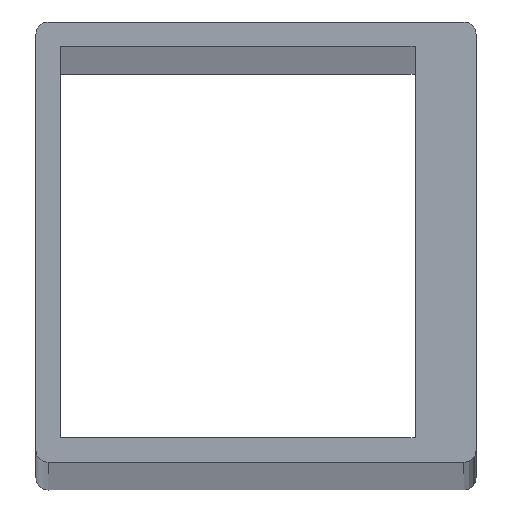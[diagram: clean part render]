
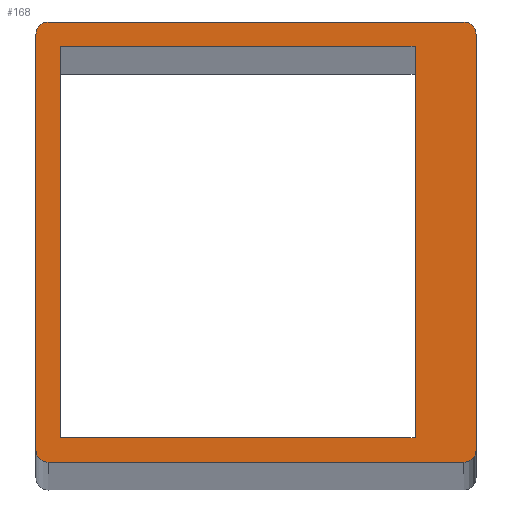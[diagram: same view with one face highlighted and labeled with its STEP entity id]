
A CAD part, top view. The second image highlights one B-rep face of the part: STEP entity #168.
In plain terms, the highlighted planar face has unit normal (0, 0, 1).
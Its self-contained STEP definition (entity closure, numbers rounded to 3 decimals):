
#55=LINE('',#1707,#83);
#58=LINE('',#1745,#86);
#61=LINE('',#1751,#89);
#63=LINE('',#1754,#91);
#64=LINE('',#1759,#92);
#65=LINE('',#1763,#93);
#66=LINE('',#1767,#94);
#67=LINE('',#1771,#95);
#83=VECTOR('',#1362,1.);
#86=VECTOR('',#1399,1.);
#89=VECTOR('',#1404,1.);
#91=VECTOR('',#1408,1.);
#92=VECTOR('',#1413,1.);
#93=VECTOR('',#1416,1.);
#94=VECTOR('',#1419,1.);
#95=VECTOR('',#1422,1.);
#168=ADVANCED_FACE('',(#301,#302),#234,.F.);
#234=PLANE('',#1191);
#301=FACE_BOUND('',#470,.T.);
#302=FACE_BOUND('',#471,.T.);
#470=EDGE_LOOP('',(#658,#659,#660,#661,#662,#663,#664,#665));
#471=EDGE_LOOP('',(#666,#667,#668,#669));
#658=ORIENTED_EDGE('',*,*,#978,.T.);
#659=ORIENTED_EDGE('',*,*,#979,.F.);
#660=ORIENTED_EDGE('',*,*,#980,.T.);
#661=ORIENTED_EDGE('',*,*,#981,.F.);
#662=ORIENTED_EDGE('',*,*,#982,.T.);
#663=ORIENTED_EDGE('',*,*,#983,.F.);
#664=ORIENTED_EDGE('',*,*,#984,.T.);
#665=ORIENTED_EDGE('',*,*,#985,.F.);
#666=ORIENTED_EDGE('',*,*,#975,.T.);
#667=ORIENTED_EDGE('',*,*,#977,.T.);
#668=ORIENTED_EDGE('',*,*,#972,.T.);
#669=ORIENTED_EDGE('',*,*,#953,.T.);
#846=VERTEX_POINT('',#1701);
#849=VERTEX_POINT('',#1706);
#866=VERTEX_POINT('',#1742);
#869=VERTEX_POINT('',#1750);
#870=VERTEX_POINT('',#1757);
#871=VERTEX_POINT('',#1758);
#872=VERTEX_POINT('',#1760);
#873=VERTEX_POINT('',#1762);
#874=VERTEX_POINT('',#1764);
#875=VERTEX_POINT('',#1766);
#876=VERTEX_POINT('',#1768);
#877=VERTEX_POINT('',#1770);
#953=EDGE_CURVE('',#846,#849,#55,.T.);
#972=EDGE_CURVE('',#866,#846,#58,.T.);
#975=EDGE_CURVE('',#849,#869,#61,.T.);
#977=EDGE_CURVE('',#869,#866,#63,.T.);
#978=EDGE_CURVE('',#870,#871,#1082,.T.);
#979=EDGE_CURVE('',#872,#871,#64,.T.);
#980=EDGE_CURVE('',#872,#873,#1083,.T.);
#981=EDGE_CURVE('',#874,#873,#65,.T.);
#982=EDGE_CURVE('',#874,#875,#1084,.T.);
#983=EDGE_CURVE('',#876,#875,#66,.T.);
#984=EDGE_CURVE('',#876,#877,#1085,.T.);
#985=EDGE_CURVE('',#870,#877,#67,.T.);
#1082=CIRCLE('',#1187,1.);
#1083=CIRCLE('',#1188,1.);
#1084=CIRCLE('',#1189,1.);
#1085=CIRCLE('',#1190,1.);
#1187=AXIS2_PLACEMENT_3D('',#1756,#1411,#1412);
#1188=AXIS2_PLACEMENT_3D('',#1761,#1414,#1415);
#1189=AXIS2_PLACEMENT_3D('',#1765,#1417,#1418);
#1190=AXIS2_PLACEMENT_3D('',#1769,#1420,#1421);
#1191=AXIS2_PLACEMENT_3D('',#1772,#1423,#1424);
#1362=DIRECTION('',(0.,-1.,0.));
#1399=DIRECTION('',(1.,0.,0.));
#1404=DIRECTION('',(-1.,0.,0.));
#1408=DIRECTION('',(0.,1.,0.));
#1411=DIRECTION('',(0.,0.,1.));
#1412=DIRECTION('',(-1.,0.,0.));
#1413=DIRECTION('',(-1.,0.,0.));
#1414=DIRECTION('',(0.,0.,1.));
#1415=DIRECTION('',(0.,-1.,0.));
#1416=DIRECTION('',(0.,-1.,0.));
#1417=DIRECTION('',(0.,0.,1.));
#1418=DIRECTION('',(1.,0.,0.));
#1419=DIRECTION('',(1.,0.,0.));
#1420=DIRECTION('',(0.,0.,1.));
#1421=DIRECTION('',(0.,1.,0.));
#1422=DIRECTION('',(0.,1.,0.));
#1423=DIRECTION('',(0.,0.,-1.));
#1424=DIRECTION('',(1.,0.,0.));
#1701=CARTESIAN_POINT('',(455.,250.012,1300.83));
#1706=CARTESIAN_POINT('',(455.,218.012,1300.83));
#1707=CARTESIAN_POINT('',(455.,250.012,1300.83));
#1742=CARTESIAN_POINT('',(426.,250.012,1300.83));
#1745=CARTESIAN_POINT('',(426.,250.012,1300.83));
#1750=CARTESIAN_POINT('',(426.,218.012,1300.83));
#1751=CARTESIAN_POINT('',(455.,218.012,1300.83));
#1754=CARTESIAN_POINT('',(426.,218.012,1300.83));
#1756=CARTESIAN_POINT('',(425.,217.012,1300.83));
#1757=CARTESIAN_POINT('',(424.,217.012,1300.83));
#1758=CARTESIAN_POINT('',(425.,216.012,1300.83));
#1759=CARTESIAN_POINT('',(392.,216.012,1300.83));
#1760=CARTESIAN_POINT('',(459.,216.012,1300.83));
#1761=CARTESIAN_POINT('',(459.,217.012,1300.83));
#1762=CARTESIAN_POINT('',(460.,217.012,1300.83));
#1763=CARTESIAN_POINT('',(460.,251.012,1300.83));
#1764=CARTESIAN_POINT('',(460.,251.012,1300.83));
#1765=CARTESIAN_POINT('',(459.,251.012,1300.83));
#1766=CARTESIAN_POINT('',(459.,252.012,1300.83));
#1767=CARTESIAN_POINT('',(492.,252.012,1300.83));
#1768=CARTESIAN_POINT('',(425.,252.012,1300.83));
#1769=CARTESIAN_POINT('',(425.,251.012,1300.83));
#1770=CARTESIAN_POINT('',(424.,251.012,1300.83));
#1771=CARTESIAN_POINT('',(424.,284.012,1300.83));
#1772=CARTESIAN_POINT('',(441.996,234.017,1300.83));
